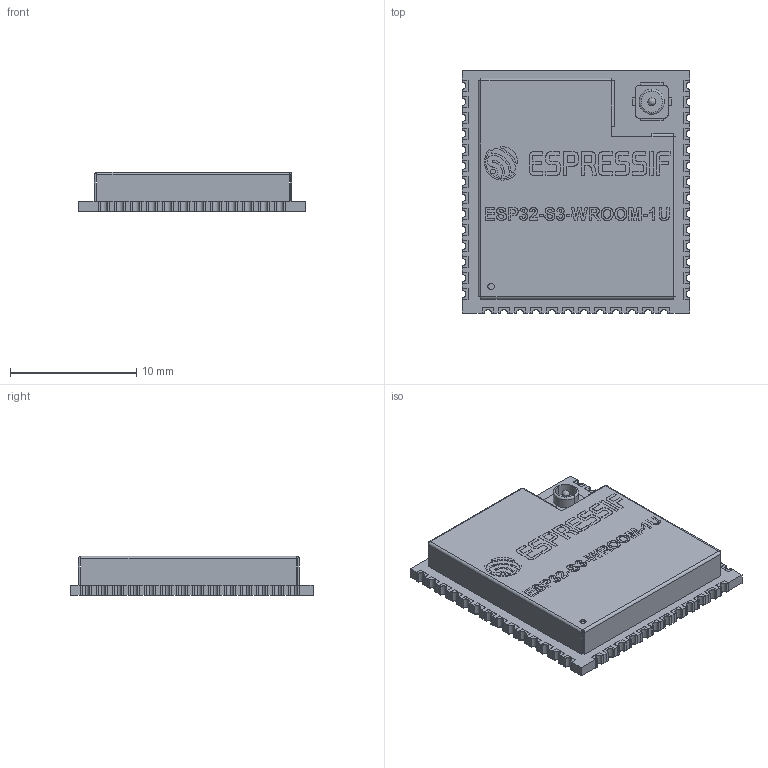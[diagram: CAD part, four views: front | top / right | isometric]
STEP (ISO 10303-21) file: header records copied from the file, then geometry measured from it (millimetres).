
FILE_DESCRIPTION (( 'STEP AP214' ), '1' );
FILE_NAME ('ESP32-S3-WROOM_1U.STEP', '2024-01-18T11:13:09', ( '' ), ( '' ), 'SwSTEP 2.0', 'SolidWorks 2017', '' );
FILE_SCHEMA (( 'AUTOMOTIVE_DESIGN' ));
Length unit declared in the file: millimetre
Products named in the file (6): ESP32-S3-WROOM_body_ANT_ext; ESP32-S3-WROOM_connector; ESP32-S3-WROOM_1U; ESP32-S3-WROOM_shell_WROOM-1U; ESP32-S3-WROOM_via; ESP32-S3-WROOM_pads_ESP32-S3-WROOM-1
Assembly tree (44 placements, depth 2):
  ESP32-S3-WROOM_1U
    ESP32-S3-WROOM_body_ANT_ext
    ESP32-S3-WROOM_shell_WROOM-1U
    ESP32-S3-WROOM_pads_ESP32-S3-WROOM-1
    ESP32-S3-WROOM_via  x40
    ESP32-S3-WROOM_connector
Bounding box: 18.04 x 19.22 x 3.12 mm (x, y, z)
Volume: 334 mm3; surface area: 1729.4 mm2
Topology: 52 solids, 52 shells, 1735 faces, 4721 edges, 3128 vertices
Faces by surface type: plane 1460, cylinder 163, bspline 112
Entity records: 50593 total; most frequent: CARTESIAN_POINT 12685, ORIENTED_EDGE 6162, DIRECTION 5127, EDGE_CURVE 3081, VECTOR 2691, LINE 2691, VERTEX_POINT 2036, AXIS2_PLACEMENT_3D 1218
